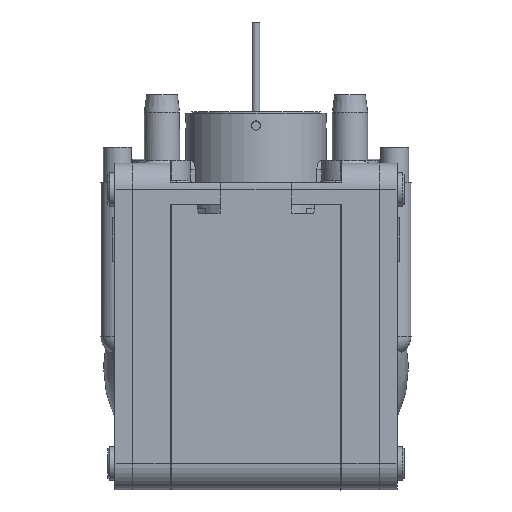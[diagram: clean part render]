
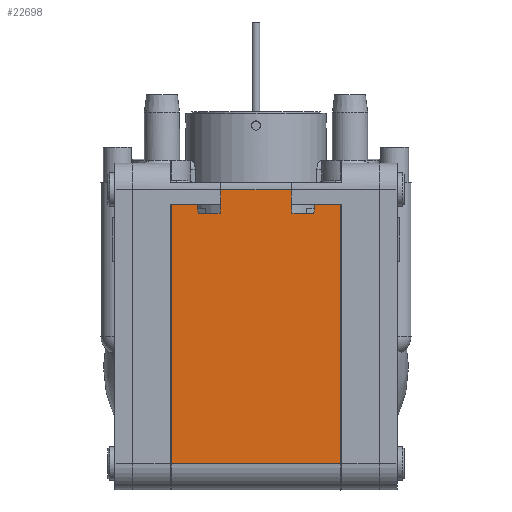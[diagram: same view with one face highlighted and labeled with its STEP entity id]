
A CAD part, front view. The second image highlights one B-rep face of the part: STEP entity #22698.
In plain terms, the highlighted planar face has unit normal (0, -1, 0).
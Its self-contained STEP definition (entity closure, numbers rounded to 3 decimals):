
#74 = LINE ( 'NONE', #19611, #8960 ) ;
#220 = LINE ( 'NONE', #22969, #15851 ) ;
#366 = VECTOR ( 'NONE', #21927, 1000. ) ;
#441 = DIRECTION ( 'NONE',  ( 0., 0., 1. ) ) ;
#787 = VECTOR ( 'NONE', #8192, 1000. ) ;
#1002 = DIRECTION ( 'NONE',  ( 1., 0., 0. ) ) ;
#1281 = VECTOR ( 'NONE', #9864, 1000. ) ;
#1471 = ORIENTED_EDGE ( 'NONE', *, *, #20232, .F. ) ;
#1477 = CARTESIAN_POINT ( 'NONE',  ( 4., -11.55, 1.686 ) ) ;
#1492 = EDGE_CURVE ( 'NONE', #10248, #3955, #5398, .T. ) ;
#1517 = CARTESIAN_POINT ( 'NONE',  ( -4.087, -11.55, -1. ) ) ;
#1593 = ORIENTED_EDGE ( 'NONE', *, *, #5428, .F. ) ;
#1695 = VECTOR ( 'NONE', #11971, 1000. ) ;
#2018 = ORIENTED_EDGE ( 'NONE', *, *, #15262, .T. ) ;
#2508 = CARTESIAN_POINT ( 'NONE',  ( 4.136, -11.55, -29.018 ) ) ;
#2539 = CARTESIAN_POINT ( 'NONE',  ( -9.65, -11.55, 0. ) ) ;
#2568 = CARTESIAN_POINT ( 'NONE',  ( -4., -11.55, 1.686 ) ) ;
#2983 = CARTESIAN_POINT ( 'NONE',  ( -6.675, -11.55, -1. ) ) ;
#3037 = LINE ( 'NONE', #3497, #16283 ) ;
#3166 = ORIENTED_EDGE ( 'NONE', *, *, #1492, .F. ) ;
#3269 = CARTESIAN_POINT ( 'NONE',  ( 6.675, -11.55, 0. ) ) ;
#3366 = LINE ( 'NONE', #8290, #17750 ) ;
#3412 = CARTESIAN_POINT ( 'NONE',  ( -9.65, -11.55, -29.5 ) ) ;
#3497 = CARTESIAN_POINT ( 'NONE',  ( 4., -11.55, 0. ) ) ;
#3883 = DIRECTION ( 'NONE',  ( 1., 0., 0. ) ) ;
#3955 = VERTEX_POINT ( 'NONE', #21226 ) ;
#4114 = CARTESIAN_POINT ( 'NONE',  ( -3.99, -11.55, -30.693 ) ) ;
#4320 = LINE ( 'NONE', #23244, #1695 ) ;
#4390 = VERTEX_POINT ( 'NONE', #18167 ) ;
#4393 = ORIENTED_EDGE ( 'NONE', *, *, #11770, .T. ) ;
#5022 = VERTEX_POINT ( 'NONE', #23773 ) ;
#5225 = DIRECTION ( 'NONE',  ( 0.087, 0., 0.996 ) ) ;
#5398 = LINE ( 'NONE', #1517, #14776 ) ;
#5428 = EDGE_CURVE ( 'NONE', #17753, #13037, #22015, .T. ) ;
#5695 = CARTESIAN_POINT ( 'NONE',  ( 4.087, -11.55, -1. ) ) ;
#5826 = CARTESIAN_POINT ( 'NONE',  ( 4.087, -11.55, -1. ) ) ;
#5862 = ORIENTED_EDGE ( 'NONE', *, *, #13662, .F. ) ;
#6157 = EDGE_CURVE ( 'NONE', #4390, #5022, #15798, .T. ) ;
#6308 = LINE ( 'NONE', #21115, #1281 ) ;
#6398 = VERTEX_POINT ( 'NONE', #3412 ) ;
#6614 = VERTEX_POINT ( 'NONE', #14989 ) ;
#6645 = ORIENTED_EDGE ( 'NONE', *, *, #9577, .F. ) ;
#6896 = CARTESIAN_POINT ( 'NONE',  ( 9.75, -11.55, 0. ) ) ;
#6949 = ORIENTED_EDGE ( 'NONE', *, *, #6157, .T. ) ;
#7382 = DIRECTION ( 'NONE',  ( 0., -1., 0. ) ) ;
#7473 = CARTESIAN_POINT ( 'NONE',  ( -4.087, -11.55, -1. ) ) ;
#7754 = EDGE_CURVE ( 'NONE', #10143, #12070, #6308, .T. ) ;
#8168 = CARTESIAN_POINT ( 'NONE',  ( -6.675, -11.55, 0. ) ) ;
#8192 = DIRECTION ( 'NONE',  ( 0., 0., 1. ) ) ;
#8259 = LINE ( 'NONE', #2983, #18238 ) ;
#8290 = CARTESIAN_POINT ( 'NONE',  ( -9.75, -11.55, 0. ) ) ;
#8380 = DIRECTION ( 'NONE',  ( 0., 0., -1. ) ) ;
#8902 = LINE ( 'NONE', #2508, #18287 ) ;
#8960 = VECTOR ( 'NONE', #8380, 1000. ) ;
#9055 = EDGE_CURVE ( 'NONE', #6614, #13452, #8902, .T. ) ;
#9179 = DIRECTION ( 'NONE',  ( 0.087, 0., -0.996 ) ) ;
#9577 = EDGE_CURVE ( 'NONE', #13037, #10248, #8259, .T. ) ;
#9864 = DIRECTION ( 'NONE',  ( -1., 0., 0. ) ) ;
#9934 = VERTEX_POINT ( 'NONE', #2539 ) ;
#10070 = DIRECTION ( 'NONE',  ( 0.087, 0., 0.996 ) ) ;
#10143 = VERTEX_POINT ( 'NONE', #1477 ) ;
#10248 = VERTEX_POINT ( 'NONE', #7473 ) ;
#10298 = VERTEX_POINT ( 'NONE', #5695 ) ;
#10416 = VECTOR ( 'NONE', #21828, 1000. ) ;
#10629 = EDGE_CURVE ( 'NONE', #10143, #21768, #74, .T. ) ;
#11112 = PLANE ( 'NONE',  #15423 ) ;
#11435 = VECTOR ( 'NONE', #15459, 1000. ) ;
#11770 = EDGE_CURVE ( 'NONE', #9934, #6398, #16008, .T. ) ;
#11971 = DIRECTION ( 'NONE',  ( 1., 0., 0. ) ) ;
#12070 = VERTEX_POINT ( 'NONE', #2568 ) ;
#12436 = CARTESIAN_POINT ( 'NONE',  ( -9.65, -11.55, -29.5 ) ) ;
#12814 = FACE_OUTER_BOUND ( 'NONE', #19520, .T. ) ;
#13037 = VERTEX_POINT ( 'NONE', #20549 ) ;
#13452 = VERTEX_POINT ( 'NONE', #3269 ) ;
#13662 = EDGE_CURVE ( 'NONE', #10298, #6614, #21209, .T. ) ;
#14776 = VECTOR ( 'NONE', #5225, 1000. ) ;
#14989 = CARTESIAN_POINT ( 'NONE',  ( 6.587, -11.55, -1. ) ) ;
#15262 = EDGE_CURVE ( 'NONE', #6398, #4390, #4320, .T. ) ;
#15367 = LINE ( 'NONE', #6896, #366 ) ;
#15423 = AXIS2_PLACEMENT_3D ( 'NONE', #18640, #7382, #20539 ) ;
#15459 = DIRECTION ( 'NONE',  ( 0.087, 0., -0.996 ) ) ;
#15617 = VECTOR ( 'NONE', #3883, 1000. ) ;
#15746 = CARTESIAN_POINT ( 'NONE',  ( 9.65, -11.55, 0. ) ) ;
#15798 = LINE ( 'NONE', #15746, #787 ) ;
#15851 = VECTOR ( 'NONE', #441, 1000. ) ;
#15959 = ORIENTED_EDGE ( 'NONE', *, *, #9055, .F. ) ;
#16008 = LINE ( 'NONE', #12436, #10416 ) ;
#16197 = EDGE_CURVE ( 'NONE', #9934, #17753, #3366, .T. ) ;
#16283 = VECTOR ( 'NONE', #9179, 1000. ) ;
#17110 = ORIENTED_EDGE ( 'NONE', *, *, #20040, .T. ) ;
#17750 = VECTOR ( 'NONE', #23326, 1000. ) ;
#17753 = VERTEX_POINT ( 'NONE', #8168 ) ;
#18049 = ORIENTED_EDGE ( 'NONE', *, *, #7754, .T. ) ;
#18167 = CARTESIAN_POINT ( 'NONE',  ( 9.65, -11.55, -29.5 ) ) ;
#18238 = VECTOR ( 'NONE', #1002, 1000. ) ;
#18287 = VECTOR ( 'NONE', #10070, 1000. ) ;
#18618 = ORIENTED_EDGE ( 'NONE', *, *, #16197, .F. ) ;
#18640 = CARTESIAN_POINT ( 'NONE',  ( 9.65, -11.55, -29.5 ) ) ;
#18661 = ORIENTED_EDGE ( 'NONE', *, *, #10629, .F. ) ;
#19520 = EDGE_LOOP ( 'NONE', ( #18618, #4393, #2018, #6949, #17110, #15959, #5862, #1471, #18661, #18049, #21738, #3166, #6645, #1593 ) ) ;
#19611 = CARTESIAN_POINT ( 'NONE',  ( 4., -11.55, -32.5 ) ) ;
#20040 = EDGE_CURVE ( 'NONE', #5022, #13452, #15367, .T. ) ;
#20232 = EDGE_CURVE ( 'NONE', #21768, #10298, #3037, .T. ) ;
#20539 = DIRECTION ( 'NONE',  ( 1., 0., 0. ) ) ;
#20549 = CARTESIAN_POINT ( 'NONE',  ( -6.587, -11.55, -1. ) ) ;
#21115 = CARTESIAN_POINT ( 'NONE',  ( 9.65, -11.55, 1.686 ) ) ;
#21209 = LINE ( 'NONE', #5826, #15617 ) ;
#21226 = CARTESIAN_POINT ( 'NONE',  ( -4., -11.55, 0. ) ) ;
#21738 = ORIENTED_EDGE ( 'NONE', *, *, #21791, .F. ) ;
#21768 = VERTEX_POINT ( 'NONE', #22818 ) ;
#21791 = EDGE_CURVE ( 'NONE', #3955, #12070, #220, .T. ) ;
#21828 = DIRECTION ( 'NONE',  ( 0., 0., -1. ) ) ;
#21927 = DIRECTION ( 'NONE',  ( -1., 0., 0. ) ) ;
#22015 = LINE ( 'NONE', #4114, #11435 ) ;
#22698 = ADVANCED_FACE ( 'NONE', ( #12814 ), #11112, .T. ) ;
#22818 = CARTESIAN_POINT ( 'NONE',  ( 4., -11.55, 0. ) ) ;
#22969 = CARTESIAN_POINT ( 'NONE',  ( -4., -11.55, 1.686 ) ) ;
#23244 = CARTESIAN_POINT ( 'NONE',  ( 9.75, -11.55, -29.5 ) ) ;
#23326 = DIRECTION ( 'NONE',  ( 1., 0., 0. ) ) ;
#23773 = CARTESIAN_POINT ( 'NONE',  ( 9.65, -11.55, 0. ) ) ;
